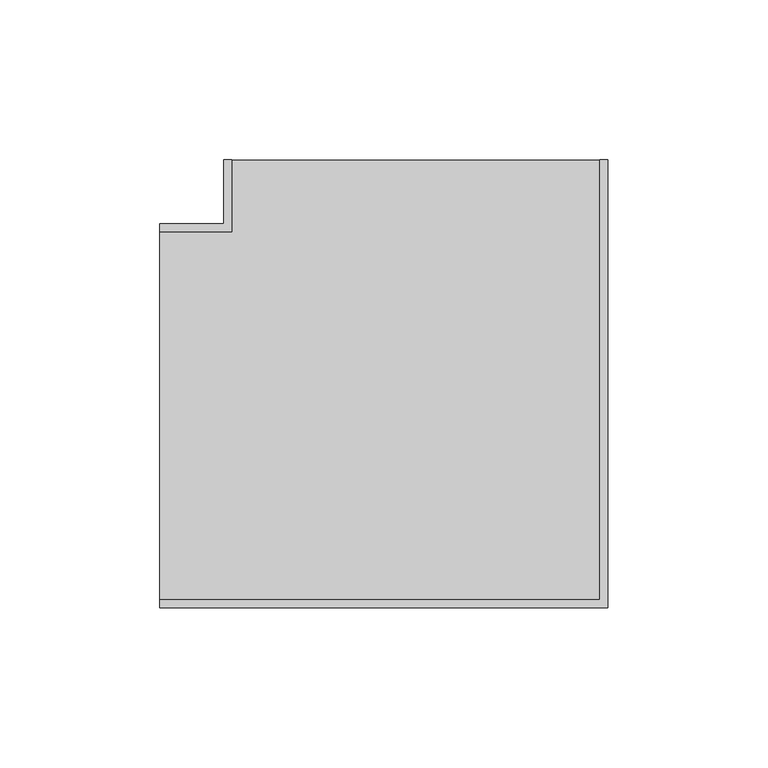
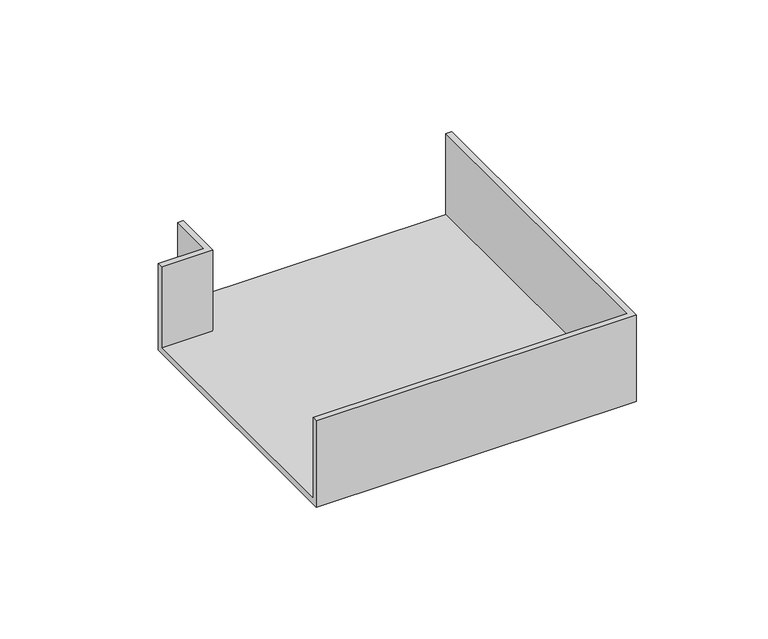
"""IFC4 building model written with IfcOpenShell, lengths in millimetres: cable carrier fitting geometry, КНС_УголПлоский NPAN_ILC_DKC : Угол плоский NPAN_DKC."""

from ifc_helpers import new_model, si_unit, origin, place, context, project, spatial, faceted_brep, source, transform, mapped, element, save


def cable_carrier_fitting_a28d7fdf(model_context):
    return source(origin(), model_context, "Body", "Brep", [
        faceted_brep([(-80.0, 60.0, -20.0), (-80.0, -60.0, -20.0), (-80.0, -60.0, 20.0), (-80.0, -57.5, 20.0), (-80.0, -57.5, -17.5), (-80.0, 57.5, -17.5), (-80.0, 57.5, 20.0), (-80.0, 60.0, 20.0), (-60.0, 60.0, -20.0), (-60.0, 80.0, -20.0), (60.0, 80.0, -20.0), (60.0, -60.0, -20.0), (60.0, -60.0, 20.0), (60.0, 80.0, 20.0), (57.5, 80.0, 20.0), (57.5, -57.5, 20.0), (57.5, -57.5, -17.5), (57.5, 80.0, -17.5), (-57.5, 80.0, -17.5), (-57.5, 57.5, -17.5), (-57.5, 57.5, 20.0), (-57.5, 80.0, 20.0), (-60.0, 80.0, 20.0), (-60.0, 60.0, 20.0)], [[[0, 1, 2, 3, 4, 5, 6, 7]], [[1, 0, 8, 9, 10, 11]], [[2, 1, 11, 12]], [[3, 2, 12, 13, 14, 15]], [[4, 3, 15, 16]], [[5, 4, 16, 17, 18, 19]], [[6, 5, 19, 20]], [[7, 6, 20, 21, 22, 23]], [[0, 7, 23, 8]], [[9, 22, 21, 18, 17, 14, 13, 10]], [[12, 11, 10, 13]], [[16, 15, 14, 17]], [[20, 19, 18, 21]], [[8, 23, 22, 9]]]),
    ])


if __name__ == "__main__":
    model = new_model("IFC4")
    model_context = context("Model", 3, world=origin())
    ifc_project = project(units=[si_unit("LENGTHUNIT", "METRE", prefix="MILLI")], contexts=[model_context])
    site = spatial("IfcSite", under=ifc_project)
    building = spatial("IfcBuilding", under=site)
    placement = place(None, origin())
    cable_carrier_fitting_shape = cable_carrier_fitting_a28d7fdf(model_context)
    element("IfcCableCarrierFitting", 1, ObjectType="КНС_УголПлоский NPAN_ILC_DKC : Угол плоский NPAN_DKC", at=placement, inside=building, context=model_context, shape_type="MappedRepresentation", body=[
        mapped(cable_carrier_fitting_shape, transform((0.0, 0.0, 0.0), x_axis=(1.0, 0.0, 0.0), y_axis=(0.0, 1.0, 0.0), z_axis=(0.0, 0.0, 1.0))),
    ])
    save(model, "model.ifc")
